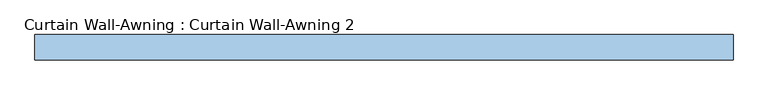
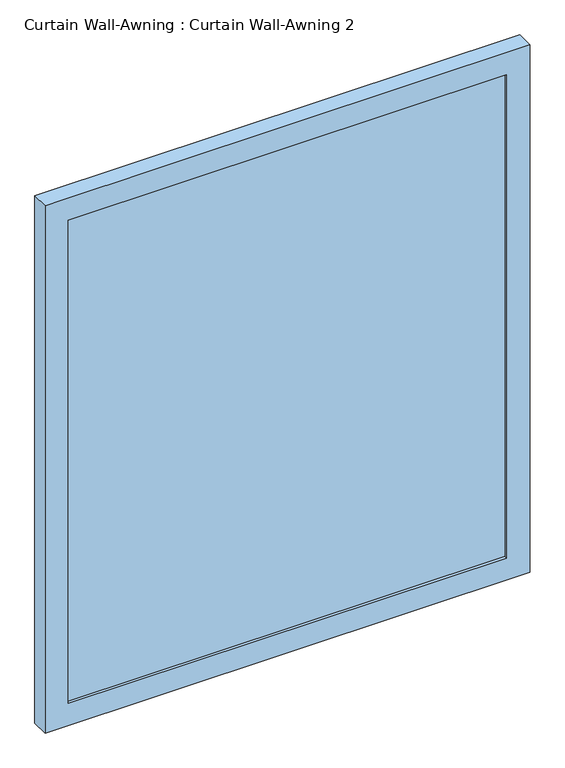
"""IFC4 building model written with IfcOpenShell, lengths in millimetres: window geometry, Curtain Wall-Awning : Curtain Wall-Awning 2."""

from ifc_helpers import new_model, si_unit, frame, origin, place, context, project, spatial, polyline, outline, extrude, source, transform, mapped, element, save


def curtain_wall_awning_curtain_wall_awning_2_1327c69f(model_context):
    return source(origin(), model_context, "Body", "SweptSolid", [
        extrude(outline(polyline([(476.25, 19.05), (476.25, 6.35), (-476.25, 6.35), (-476.25, 19.05), (476.25, 19.05)])), frame((0.0, 0.0, 50.8), z_axis=(0.0, 0.0, 1.0), x_axis=(1.0, 0.0, 0.0)), (0.0, 0.0, 1.0), 1109.5379274),
        extrude(outline(polyline([(1211.1379274, -527.05), (0.0, -527.05), (0.0, 527.05), (1211.1379274, 527.05), (1211.1379274, -527.05)]), holes=[polyline([(1160.3379274, -476.25), (1160.3379274, 476.25), (50.8, 476.25), (50.8, -476.25), (1160.3379274, -476.25)])]), frame((0.0, 0.0, 0.0), z_axis=(0.0, 1.0, 0.0), x_axis=(0.0, 0.0, 1.0)), (0.0, 0.0, 1.0), 38.1),
    ])


if __name__ == "__main__":
    model = new_model("IFC4")
    model_context = context("Model", 3, world=origin())
    ifc_project = project(units=[si_unit("LENGTHUNIT", "METRE", prefix="MILLI")], contexts=[model_context])
    site = spatial("IfcSite", under=ifc_project)
    building = spatial("IfcBuilding", under=site)
    placement = place(None, origin())
    curtain_wall_awning_curtain_wall_awning_2_shape = curtain_wall_awning_curtain_wall_awning_2_1327c69f(model_context)
    element("IfcWindow", 1, ObjectType="Curtain Wall-Awning : Curtain Wall-Awning 2", at=placement, inside=building, context=model_context, shape_type="MappedRepresentation", body=[
        mapped(curtain_wall_awning_curtain_wall_awning_2_shape, transform((0.0, 0.0, 0.0), x_axis=(1.0, 0.0, 0.0), y_axis=(0.0, 1.0, 0.0), z_axis=(0.0, 0.0, 1.0))),
    ])
    save(model, "model.ifc")
